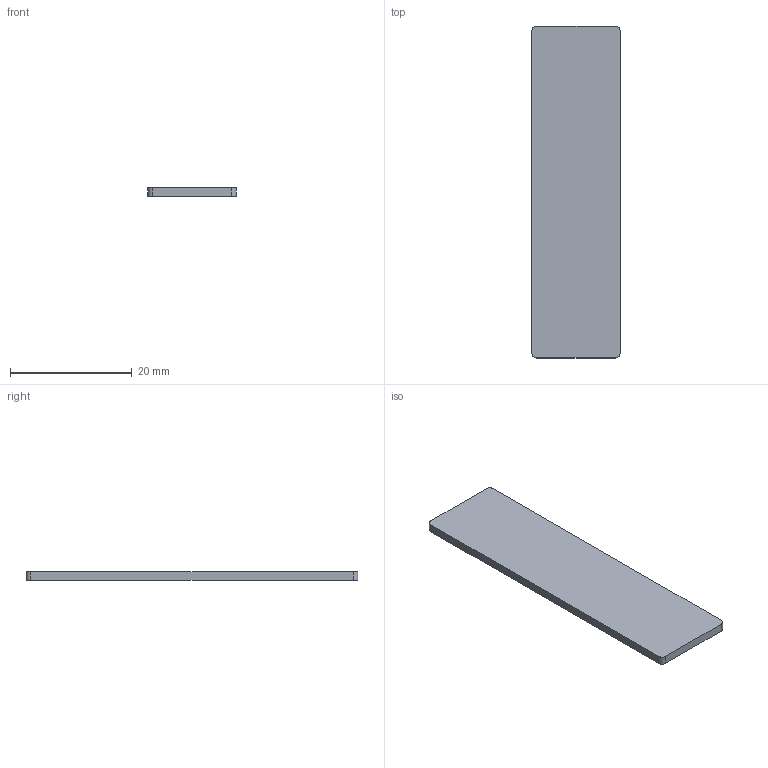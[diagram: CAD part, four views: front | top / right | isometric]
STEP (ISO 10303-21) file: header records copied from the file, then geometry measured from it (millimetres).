
FILE_DESCRIPTION (( 'STEP AP203' ), '1' );
FILE_NAME ('F138140526247-Branding Clip Zircon V8.STEP', '2022-07-27T12:07:46', ( '' ), ( '' ), 'SwSTEP 2.0', 'SolidWorks 2021', '' );
FILE_SCHEMA (( 'CONFIG_CONTROL_DESIGN' ));
Length unit declared in the file: millimetre
Products named in the file (1): F138140526247-Branding Clip Zircon V8
Bounding box: 14.5 x 54.5 x 1.4 mm (x, y, z)
Volume: 1105.6 mm3; surface area: 1770.7 mm2
Topology: 1 solids, 1 shells, 10 faces, 24 edges, 16 vertices
Faces by surface type: plane 6, cylinder 4
Entity records: 373 total; most frequent: DIRECTION 54, CARTESIAN_POINT 51, ORIENTED_EDGE 48, EDGE_CURVE 24, AXIS2_PLACEMENT_3D 19, VERTEX_POINT 16, LINE 16, VECTOR 16
